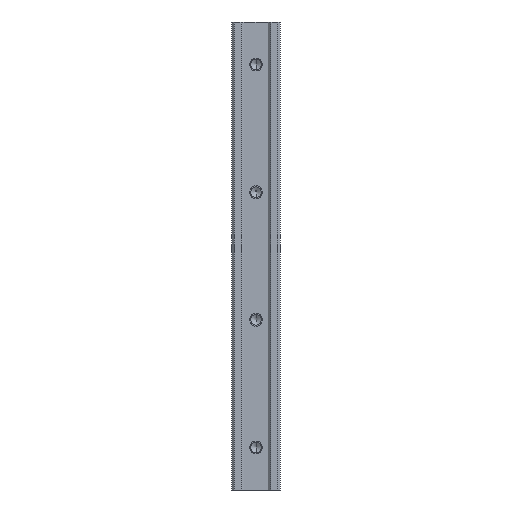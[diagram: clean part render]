
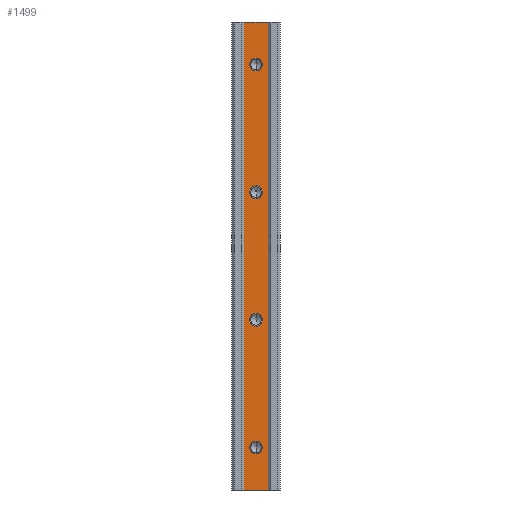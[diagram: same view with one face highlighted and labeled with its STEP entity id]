
A CAD part, front view. The second image highlights one B-rep face of the part: STEP entity #1499.
In plain terms, the highlighted planar face has unit normal (0, -1, 0).
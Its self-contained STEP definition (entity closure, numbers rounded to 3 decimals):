
#42 = DIRECTION ( 'NONE',  ( 0., -1., 0. ) ) ;
#50 = CARTESIAN_POINT ( 'NONE',  ( 0., 1.25, 33. ) ) ;
#52 = EDGE_CURVE ( 'NONE', #343, #524, #611, .T. ) ;
#57 = EDGE_LOOP ( 'NONE', ( #427, #1362 ) ) ;
#73 = DIRECTION ( 'NONE',  ( 0., 0., -1. ) ) ;
#80 = EDGE_CURVE ( 'NONE', #1314, #775, #1329, .T. ) ;
#126 = DIRECTION ( 'NONE',  ( -1., 0., 0. ) ) ;
#128 = DIRECTION ( 'NONE',  ( 0., 1., 0. ) ) ;
#133 = VERTEX_POINT ( 'NONE', #1506 ) ;
#142 = CARTESIAN_POINT ( 'NONE',  ( -5.75, 1.25, -110. ) ) ;
#169 = EDGE_CURVE ( 'NONE', #825, #779, #1194, .T. ) ;
#172 = DIRECTION ( 'NONE',  ( 0., -1., 0. ) ) ;
#205 = FACE_BOUND ( 'NONE', #1083, .T. ) ;
#241 = CARTESIAN_POINT ( 'NONE',  ( -5.75, 1.25, 110. ) ) ;
#263 = FACE_BOUND ( 'NONE', #326, .T. ) ;
#266 = LINE ( 'NONE', #1618, #1378 ) ;
#286 = CARTESIAN_POINT ( 'NONE',  ( 0., 1.25, 27. ) ) ;
#295 = ORIENTED_EDGE ( 'NONE', *, *, #1046, .F. ) ;
#299 = CARTESIAN_POINT ( 'NONE',  ( 0., 1.25, 30. ) ) ;
#326 = EDGE_LOOP ( 'NONE', ( #1425, #1302 ) ) ;
#330 = EDGE_CURVE ( 'NONE', #133, #814, #739, .T. ) ;
#343 = VERTEX_POINT ( 'NONE', #1565 ) ;
#351 = AXIS2_PLACEMENT_3D ( 'NONE', #1534, #42, #1162 ) ;
#362 = VERTEX_POINT ( 'NONE', #1224 ) ;
#369 = ORIENTED_EDGE ( 'NONE', *, *, #757, .T. ) ;
#381 = CARTESIAN_POINT ( 'NONE',  ( 0., 1.25, 93. ) ) ;
#396 = AXIS2_PLACEMENT_3D ( 'NONE', #557, #1071, #1324 ) ;
#425 = CARTESIAN_POINT ( 'NONE',  ( 0., 1.25, -33. ) ) ;
#427 = ORIENTED_EDGE ( 'NONE', *, *, #80, .F. ) ;
#433 = CARTESIAN_POINT ( 'NONE',  ( 0., 1.25, 87. ) ) ;
#435 = FACE_BOUND ( 'NONE', #1510, .T. ) ;
#454 = CIRCLE ( 'NONE', #523, 3. ) ;
#480 = EDGE_LOOP ( 'NONE', ( #977, #893, #1408, #369 ) ) ;
#510 = DIRECTION ( 'NONE',  ( 0., -1., 0. ) ) ;
#519 = AXIS2_PLACEMENT_3D ( 'NONE', #1085, #1340, #1218 ) ;
#523 = AXIS2_PLACEMENT_3D ( 'NONE', #905, #1145, #1287 ) ;
#524 = VERTEX_POINT ( 'NONE', #241 ) ;
#557 = CARTESIAN_POINT ( 'NONE',  ( 0., 1.25, -90. ) ) ;
#563 = DIRECTION ( 'NONE',  ( 0., -1., 0. ) ) ;
#611 = LINE ( 'NONE', #936, #1031 ) ;
#647 = AXIS2_PLACEMENT_3D ( 'NONE', #142, #128, #759 ) ;
#649 = CIRCLE ( 'NONE', #952, 3. ) ;
#694 = ORIENTED_EDGE ( 'NONE', *, *, #1595, .F. ) ;
#699 = DIRECTION ( 'NONE',  ( -1., 0., 0. ) ) ;
#717 = CARTESIAN_POINT ( 'NONE',  ( -5.75, 1.25, -110. ) ) ;
#739 = CIRCLE ( 'NONE', #767, 3. ) ;
#757 = EDGE_CURVE ( 'NONE', #776, #343, #1233, .T. ) ;
#759 = DIRECTION ( 'NONE',  ( 0., 0., 1. ) ) ;
#767 = AXIS2_PLACEMENT_3D ( 'NONE', #816, #563, #73 ) ;
#773 = CARTESIAN_POINT ( 'NONE',  ( 0., 1.25, -87. ) ) ;
#775 = VERTEX_POINT ( 'NONE', #773 ) ;
#776 = VERTEX_POINT ( 'NONE', #1525 ) ;
#779 = VERTEX_POINT ( 'NONE', #50 ) ;
#790 = DIRECTION ( 'NONE',  ( 0., 0., 1. ) ) ;
#804 = CIRCLE ( 'NONE', #351, 3. ) ;
#805 = DIRECTION ( 'NONE',  ( 0., -1., 0. ) ) ;
#814 = VERTEX_POINT ( 'NONE', #425 ) ;
#816 = CARTESIAN_POINT ( 'NONE',  ( 0., 1.25, -30. ) ) ;
#823 = EDGE_CURVE ( 'NONE', #814, #133, #454, .T. ) ;
#825 = VERTEX_POINT ( 'NONE', #286 ) ;
#858 = CARTESIAN_POINT ( 'NONE',  ( 0., 1.25, -93. ) ) ;
#869 = ORIENTED_EDGE ( 'NONE', *, *, #1556, .F. ) ;
#872 = PLANE ( 'NONE',  #647 ) ;
#893 = ORIENTED_EDGE ( 'NONE', *, *, #1122, .F. ) ;
#894 = VECTOR ( 'NONE', #790, 1000. ) ;
#900 = CIRCLE ( 'NONE', #1325, 3. ) ;
#905 = CARTESIAN_POINT ( 'NONE',  ( 0., 1.25, -30. ) ) ;
#936 = CARTESIAN_POINT ( 'NONE',  ( -5.75, 1.25, 110. ) ) ;
#952 = AXIS2_PLACEMENT_3D ( 'NONE', #1035, #805, #1496 ) ;
#953 = DIRECTION ( 'NONE',  ( 0., 0., 1. ) ) ;
#977 = ORIENTED_EDGE ( 'NONE', *, *, #52, .T. ) ;
#1031 = VECTOR ( 'NONE', #699, 1000. ) ;
#1035 = CARTESIAN_POINT ( 'NONE',  ( 0., 1.25, -90. ) ) ;
#1038 = DIRECTION ( 'NONE',  ( 0., 0., -1. ) ) ;
#1045 = ORIENTED_EDGE ( 'NONE', *, *, #169, .F. ) ;
#1046 = EDGE_CURVE ( 'NONE', #1553, #1251, #804, .T. ) ;
#1071 = DIRECTION ( 'NONE',  ( 0., -1., 0. ) ) ;
#1081 = EDGE_CURVE ( 'NONE', #775, #1314, #649, .T. ) ;
#1083 = EDGE_LOOP ( 'NONE', ( #869, #295 ) ) ;
#1085 = CARTESIAN_POINT ( 'NONE',  ( 0., 1.25, 30. ) ) ;
#1088 = EDGE_CURVE ( 'NONE', #776, #362, #266, .T. ) ;
#1113 = AXIS2_PLACEMENT_3D ( 'NONE', #1271, #510, #1038 ) ;
#1122 = EDGE_CURVE ( 'NONE', #362, #524, #1610, .T. ) ;
#1145 = DIRECTION ( 'NONE',  ( 0., -1., 0. ) ) ;
#1153 = CARTESIAN_POINT ( 'NONE',  ( 5.75, 1.25, -110. ) ) ;
#1162 = DIRECTION ( 'NONE',  ( 0., 0., -1. ) ) ;
#1194 = CIRCLE ( 'NONE', #519, 3. ) ;
#1218 = DIRECTION ( 'NONE',  ( 0., 0., -1. ) ) ;
#1224 = CARTESIAN_POINT ( 'NONE',  ( -5.75, 1.25, -110. ) ) ;
#1233 = LINE ( 'NONE', #1153, #894 ) ;
#1251 = VERTEX_POINT ( 'NONE', #433 ) ;
#1271 = CARTESIAN_POINT ( 'NONE',  ( 0., 1.25, 90. ) ) ;
#1287 = DIRECTION ( 'NONE',  ( 0., 0., -1. ) ) ;
#1292 = VECTOR ( 'NONE', #953, 1000. ) ;
#1302 = ORIENTED_EDGE ( 'NONE', *, *, #330, .F. ) ;
#1305 = DIRECTION ( 'NONE',  ( 0., 0., -1. ) ) ;
#1314 = VERTEX_POINT ( 'NONE', #858 ) ;
#1324 = DIRECTION ( 'NONE',  ( 0., 0., -1. ) ) ;
#1325 = AXIS2_PLACEMENT_3D ( 'NONE', #299, #172, #1305 ) ;
#1329 = CIRCLE ( 'NONE', #396, 3. ) ;
#1340 = DIRECTION ( 'NONE',  ( 0., -1., 0. ) ) ;
#1362 = ORIENTED_EDGE ( 'NONE', *, *, #1081, .F. ) ;
#1378 = VECTOR ( 'NONE', #126, 1000. ) ;
#1408 = ORIENTED_EDGE ( 'NONE', *, *, #1088, .F. ) ;
#1425 = ORIENTED_EDGE ( 'NONE', *, *, #823, .F. ) ;
#1471 = CIRCLE ( 'NONE', #1113, 3. ) ;
#1493 = FACE_OUTER_BOUND ( 'NONE', #480, .T. ) ;
#1496 = DIRECTION ( 'NONE',  ( 0., 0., -1. ) ) ;
#1499 = ADVANCED_FACE ( 'NONE', ( #435, #205, #1493, #263, #1558 ), #872, .F. ) ;
#1506 = CARTESIAN_POINT ( 'NONE',  ( 0., 1.25, -27. ) ) ;
#1510 = EDGE_LOOP ( 'NONE', ( #1045, #694 ) ) ;
#1525 = CARTESIAN_POINT ( 'NONE',  ( 5.75, 1.25, -110. ) ) ;
#1534 = CARTESIAN_POINT ( 'NONE',  ( 0., 1.25, 90. ) ) ;
#1553 = VERTEX_POINT ( 'NONE', #381 ) ;
#1556 = EDGE_CURVE ( 'NONE', #1251, #1553, #1471, .T. ) ;
#1558 = FACE_BOUND ( 'NONE', #57, .T. ) ;
#1565 = CARTESIAN_POINT ( 'NONE',  ( 5.75, 1.25, 110. ) ) ;
#1595 = EDGE_CURVE ( 'NONE', #779, #825, #900, .T. ) ;
#1610 = LINE ( 'NONE', #717, #1292 ) ;
#1618 = CARTESIAN_POINT ( 'NONE',  ( -5.75, 1.25, -110. ) ) ;
